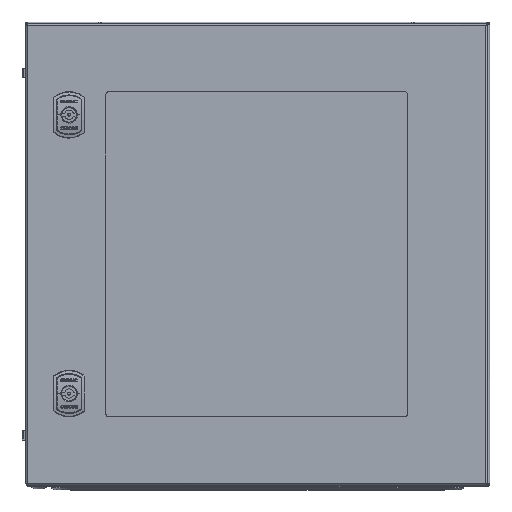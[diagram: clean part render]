
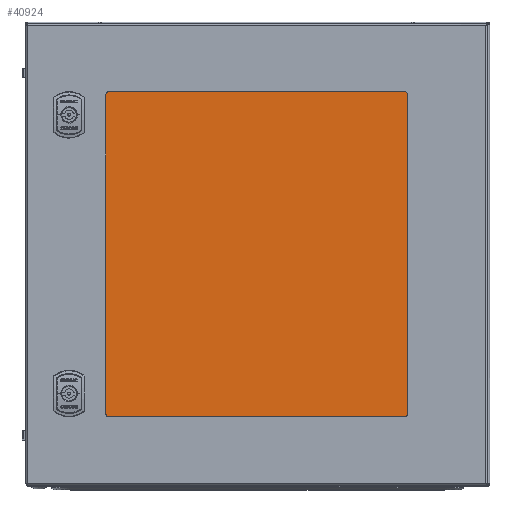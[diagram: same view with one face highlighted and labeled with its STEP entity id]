
A CAD part, top view. The second image highlights one B-rep face of the part: STEP entity #40924.
In plain terms, the highlighted planar face has unit normal (0, 0, 1) as drawn and (0, 0, -1) by its records, which use the part's own axes.
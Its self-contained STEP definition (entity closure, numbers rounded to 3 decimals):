
#82 = EDGE_CURVE ( 'NONE', #12825, #22100, #104891, .T. ) ;
#596 = LINE ( 'NONE', #66619, #8833 ) ;
#8833 = VECTOR ( 'NONE', #67169, 1000. ) ;
#12825 = VERTEX_POINT ( 'NONE', #96415 ) ;
#15551 = CARTESIAN_POINT ( 'NONE',  ( 0., 0., 0. ) ) ;
#17716 = ORIENTED_EDGE ( 'NONE', *, *, #82, .F. ) ;
#22050 = DIRECTION ( 'NONE',  ( -1., 0., 0. ) ) ;
#22100 = VERTEX_POINT ( 'NONE', #94329 ) ;
#23847 = VERTEX_POINT ( 'NONE', #88321 ) ;
#25705 = VECTOR ( 'NONE', #22050, 1000. ) ;
#27013 = ORIENTED_EDGE ( 'NONE', *, *, #32181, .F. ) ;
#29789 = ORIENTED_EDGE ( 'NONE', *, *, #47008, .F. ) ;
#32181 = EDGE_CURVE ( 'NONE', #22100, #23847, #68237, .T. ) ;
#32912 = CARTESIAN_POINT ( 'NONE',  ( -172.5, 185., 0. ) ) ;
#32998 = FACE_OUTER_BOUND ( 'NONE', #70038, .T. ) ;
#40924 = ADVANCED_FACE ( 'NONE', ( #32998 ), #49387, .T. ) ;
#44659 = ORIENTED_EDGE ( 'NONE', *, *, #74742, .F. ) ;
#47008 = EDGE_CURVE ( 'NONE', #23847, #96736, #72239, .T. ) ;
#47040 = DIRECTION ( 'NONE',  ( 1., 0., 0. ) ) ;
#47591 = CARTESIAN_POINT ( 'NONE',  ( -172.5, -185., 0. ) ) ;
#49387 = PLANE ( 'NONE',  #84820 ) ;
#56228 = VECTOR ( 'NONE', #69838, 1000. ) ;
#66619 = CARTESIAN_POINT ( 'NONE',  ( -172.5, -185., 0. ) ) ;
#67169 = DIRECTION ( 'NONE',  ( 0., -1., 0. ) ) ;
#68237 = LINE ( 'NONE', #68772, #56228 ) ;
#68772 = CARTESIAN_POINT ( 'NONE',  ( 172.5, -185., 0. ) ) ;
#69838 = DIRECTION ( 'NONE',  ( 0., 1., 0. ) ) ;
#70038 = EDGE_LOOP ( 'NONE', ( #27013, #17716, #44659, #29789 ) ) ;
#72239 = LINE ( 'NONE', #32912, #25705 ) ;
#74473 = DIRECTION ( 'NONE',  ( -1., 0., 0. ) ) ;
#74742 = EDGE_CURVE ( 'NONE', #96736, #12825, #596, .T. ) ;
#74831 = VECTOR ( 'NONE', #47040, 1000. ) ;
#77168 = CARTESIAN_POINT ( 'NONE',  ( -172.5, 185., 0. ) ) ;
#81576 = DIRECTION ( 'NONE',  ( 0., 0., -1. ) ) ;
#84820 = AXIS2_PLACEMENT_3D ( 'NONE', #15551, #81576, #74473 ) ;
#88321 = CARTESIAN_POINT ( 'NONE',  ( 172.5, 185., 0. ) ) ;
#94329 = CARTESIAN_POINT ( 'NONE',  ( 172.5, -185., 0. ) ) ;
#96415 = CARTESIAN_POINT ( 'NONE',  ( -172.5, -185., 0. ) ) ;
#96736 = VERTEX_POINT ( 'NONE', #77168 ) ;
#104891 = LINE ( 'NONE', #47591, #74831 ) ;
